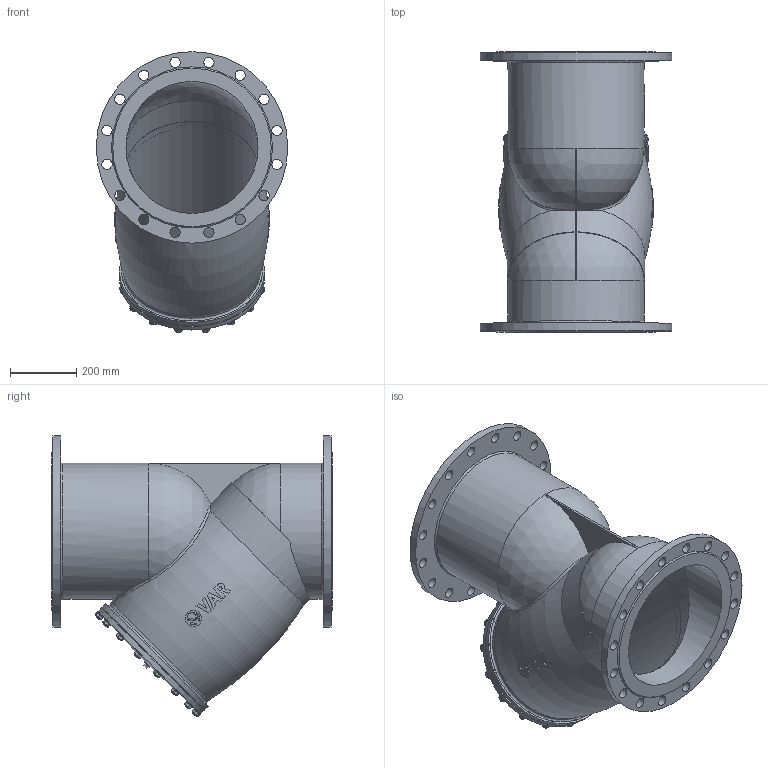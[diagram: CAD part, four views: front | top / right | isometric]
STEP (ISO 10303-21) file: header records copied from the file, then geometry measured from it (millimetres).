
FILE_DESCRIPTION(('STEP AP203'), '1');
FILE_NAME('VAR STRAINER ôèëüòð-ãðÿçåóëîâèòåëü', '', ('UNSPECIFIED'), ('UNSPECIFIED'), 'C3D Converter', 'C3D Toolkit', '');
FILE_SCHEMA(('CONFIG_CONTROL_DESIGN'));
Length unit declared in the file: millimetre
Assembly tree (53 placements, depth 2):
  (unnamed)
    (unnamed)
    (unnamed)
    (unnamed)  x16
    (unnamed)  x16
    (unnamed)  x16
    (unnamed)
    (unnamed)
    (unnamed)
Bounding box: 580 x 850 x 850 mm (x, y, z)
Volume: 19080734.2 mm3; surface area: 4899907.4 mm2
Topology: 54 solids, 54 shells, 766 faces, 1848 edges, 1191 vertices
Faces by surface type: plane 321, cylinder 152, extrusion 134, cone 116, torus 29, sphere 8, bspline 6
Full cylindrical faces by diameter (mm): 12 x48, 13 x16, 14 x18, 21 x1, 24 x16, 31 x32, 49.11 x1, 400 x6, 404 x3, 408 x1, 410 x2, 412 x1, 416 x1, 440 x2, 580 x2
Entity records: 30385 total; most frequent: CARTESIAN_POINT 16728, ORIENTED_EDGE 2086, DIRECTION 1769, EDGE_CURVE 1043, VERTEX_POINT 752, EDGE_LOOP 703, AXIS2_PLACEMENT_3D 685, B_SPLINE_CURVE_WITH_KNOTS 568
